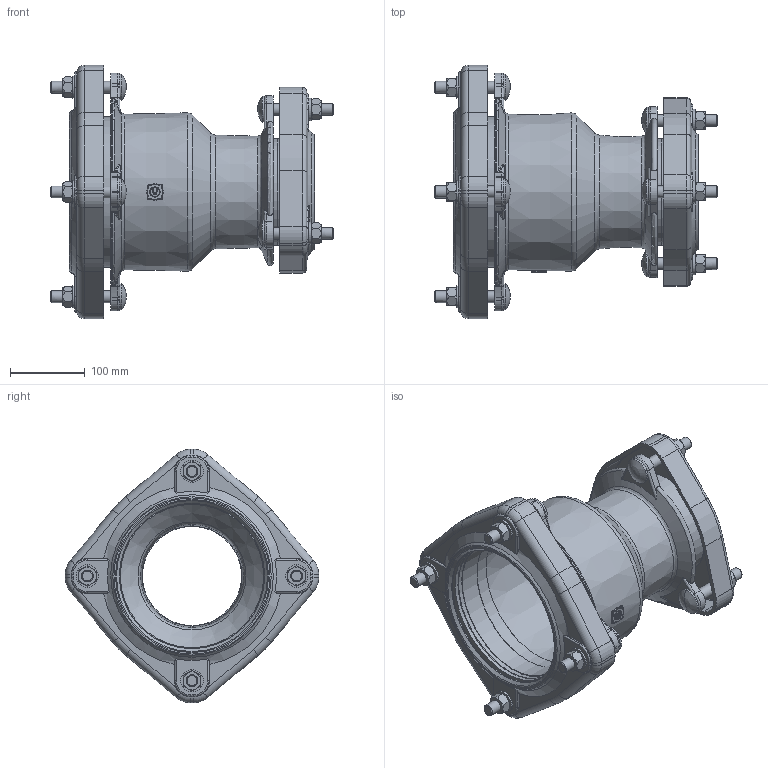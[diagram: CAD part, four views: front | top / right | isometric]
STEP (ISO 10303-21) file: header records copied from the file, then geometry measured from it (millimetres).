
FILE_DESCRIPTION((''),'2;1');
FILE_NAME('P:\Fastrack\54361_VIKING JOHNSON 3D\ULTRAGRIP\Component Parts\Components Built up\Stepped Coupling Assembly\100-150MM-UltraGrip-Stepped-Coupling-Assembly.stp','2012-05-03T09:25:23',('dcole'),(''),'Autodesk Inventor 2008','Autodesk Inventor 2008','');
FILE_SCHEMA(('AUTOMOTIVE_DESIGN { 1 0 10303 214 1 1 1 1 }'));
Length unit declared in the file: millimetre
Products named in the file (1): 100-150MM-UltraGrip-Stepped-Coupling-Assembly
Bounding box: 378.5 x 338.8 x 338.8 mm (x, y, z)
Volume: 2355107.5 mm3; surface area: 760236.9 mm2
Topology: 1 solids, 1 shells, 1190 faces, 3075 edges, 1932 vertices
Faces by surface type: plane 454, cylinder 360, bspline 158, cone 120, torus 98
Full cylindrical faces by diameter (mm): 13 x1, 15.7 x14, 16 x7, 30 x7, 35.2 x7, 132.7 x1, 133.7 x1, 134.7 x1, 141.7 x1, 142.7 x1, 191.7 x1, 193.7 x3, 201 x1, 241.07 x1
Entity records: 51542 total; most frequent: CARTESIAN_POINT 22644, ORIENTED_EDGE 5806, DIRECTION 5661, EDGE_CURVE 2903, AXIS2_PLACEMENT_3D 2178, VERTEX_POINT 1874, EDGE_LOOP 1361, VECTOR 1305
